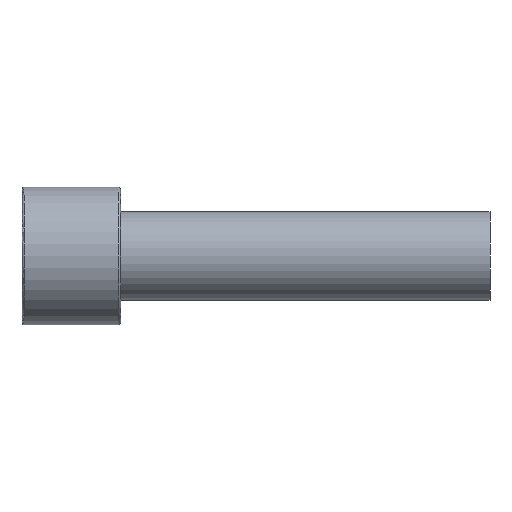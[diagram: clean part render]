
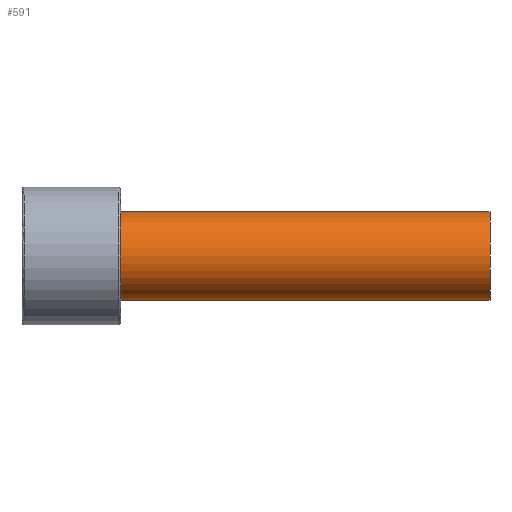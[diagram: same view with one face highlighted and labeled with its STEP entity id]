
A CAD part, front view. The second image highlights one B-rep face of the part: STEP entity #591.
In plain terms, the highlighted cylindrical face has radius 9 mm (diameter 18 mm), a partial arc.
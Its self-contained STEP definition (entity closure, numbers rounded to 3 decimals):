
#425=CARTESIAN_POINT('Vertex',(95.,0.,9.)) ;
#428=CARTESIAN_POINT('Axis2P3D Location',(95.,0.,0.)) ;
#432=CARTESIAN_POINT('Vertex',(95.,-9.,0.)) ;
#435=CARTESIAN_POINT('Axis2P3D Location',(95.,0.,0.)) ;
#439=CARTESIAN_POINT('Vertex',(95.,0.,-9.)) ;
#531=CARTESIAN_POINT('Line Origine',(95.,0.,9.)) ;
#535=CARTESIAN_POINT('Vertex',(20.,0.,9.)) ;
#538=CARTESIAN_POINT('Line Origine',(95.,0.,-9.)) ;
#542=CARTESIAN_POINT('Vertex',(20.,0.,-9.)) ;
#566=CARTESIAN_POINT('Axis2P3D Location',(95.,0.,0.)) ;
#571=CARTESIAN_POINT('Axis2P3D Location',(20.,0.,0.)) ;
#575=CARTESIAN_POINT('Vertex',(20.,-9.,0.)) ;
#578=CARTESIAN_POINT('Axis2P3D Location',(20.,0.,0.)) ;
#429=DIRECTION('Axis2P3D Direction',(1.,0.,-0.)) ;
#436=DIRECTION('Axis2P3D Direction',(1.,0.,-0.)) ;
#532=DIRECTION('Vector Direction',(-1.,0.,0.)) ;
#539=DIRECTION('Vector Direction',(-1.,0.,0.)) ;
#567=DIRECTION('Axis2P3D Direction',(-1.,-0.,-0.)) ;
#568=DIRECTION('Axis2P3D XDirection',(0.,0.,-1.)) ;
#572=DIRECTION('Axis2P3D Direction',(-1.,-0.,-0.)) ;
#579=DIRECTION('Axis2P3D Direction',(-1.,-0.,-0.)) ;
#430=AXIS2_PLACEMENT_3D('Circle Axis2P3D',#428,#429,$) ;
#437=AXIS2_PLACEMENT_3D('Circle Axis2P3D',#435,#436,$) ;
#569=AXIS2_PLACEMENT_3D('Cylinder Axis2P3D',#566,#567,#568) ;
#573=AXIS2_PLACEMENT_3D('Circle Axis2P3D',#571,#572,$) ;
#580=AXIS2_PLACEMENT_3D('Circle Axis2P3D',#578,#579,$) ;
#584=ORIENTED_EDGE('',*,*,#544,.T.) ;
#585=ORIENTED_EDGE('',*,*,#441,.F.) ;
#586=ORIENTED_EDGE('',*,*,#434,.F.) ;
#587=ORIENTED_EDGE('',*,*,#537,.T.) ;
#588=ORIENTED_EDGE('',*,*,#577,.T.) ;
#589=ORIENTED_EDGE('',*,*,#582,.T.) ;
#533=VECTOR('Line Direction',#532,1.) ;
#540=VECTOR('Line Direction',#539,1.) ;
#591=ADVANCED_FACE('367-18X95',(#590),#570,.T.) ;
#431=CIRCLE('generated circle',#430,9.) ;
#438=CIRCLE('generated circle',#437,9.) ;
#574=CIRCLE('generated circle',#573,9.) ;
#581=CIRCLE('generated circle',#580,9.) ;
#570=CYLINDRICAL_SURFACE('generated cylinder',#569,9.) ;
#434=EDGE_CURVE('',#426,#433,#431,.T.) ;
#441=EDGE_CURVE('',#433,#440,#438,.T.) ;
#537=EDGE_CURVE('',#426,#536,#534,.T.) ;
#544=EDGE_CURVE('',#543,#440,#541,.F.) ;
#577=EDGE_CURVE('',#536,#576,#574,.F.) ;
#582=EDGE_CURVE('',#576,#543,#581,.F.) ;
#583=EDGE_LOOP('',(#584,#585,#586,#587,#588,#589)) ;
#590=FACE_OUTER_BOUND('',#583,.T.) ;
#534=LINE('Line',#531,#533) ;
#541=LINE('Line',#538,#540) ;
#426=VERTEX_POINT('',#425) ;
#433=VERTEX_POINT('',#432) ;
#440=VERTEX_POINT('',#439) ;
#536=VERTEX_POINT('',#535) ;
#543=VERTEX_POINT('',#542) ;
#576=VERTEX_POINT('',#575) ;
